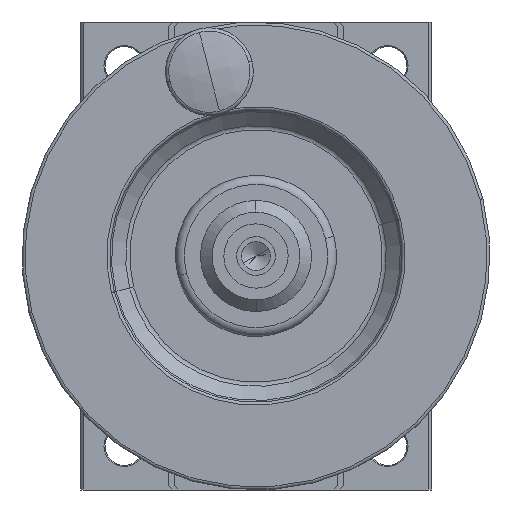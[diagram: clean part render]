
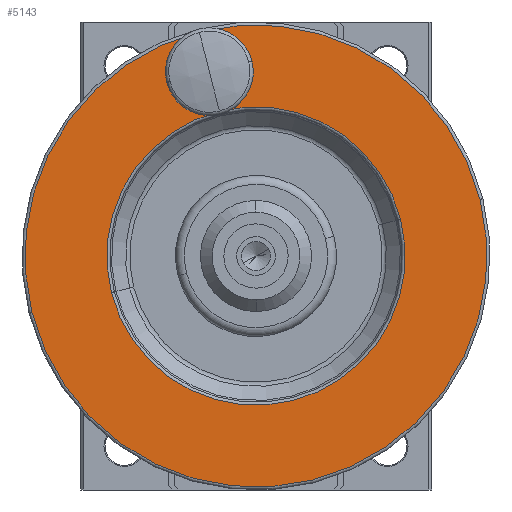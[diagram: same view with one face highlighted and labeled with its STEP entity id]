
A CAD part, left-side view. The second image highlights one B-rep face of the part: STEP entity #5143.
In plain terms, the highlighted planar face has unit normal (-1, 0, 0).
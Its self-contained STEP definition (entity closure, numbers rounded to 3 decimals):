
#138 = CARTESIAN_POINT ( 'NONE',  ( -51., -10.722, -33.747 ) ) ;
#165 = EDGE_CURVE ( 'NONE', #18393, #7353, #18886, .T. ) ;
#584 = EDGE_LOOP ( 'NONE', ( #7034, #17690 ) ) ;
#1178 = ORIENTED_EDGE ( 'NONE', *, *, #165, .T. ) ;
#1584 = EDGE_LOOP ( 'NONE', ( #18350, #1178 ) ) ;
#1724 = CIRCLE ( 'NONE', #15429, 3.001 ) ;
#2525 = CARTESIAN_POINT ( 'NONE',  ( -51., 14., -40. ) ) ;
#2565 = CARTESIAN_POINT ( 'NONE',  ( -51., 14., -40. ) ) ;
#2573 = CIRCLE ( 'NONE', #13454, 25.5 ) ;
#2853 = CIRCLE ( 'NONE', #7231, 39.5 ) ;
#2947 = AXIS2_PLACEMENT_3D ( 'NONE', #11698, #16101, #5755 ) ;
#3879 = CARTESIAN_POINT ( 'NONE',  ( -51., 38.722, -46.253 ) ) ;
#3934 = DIRECTION ( 'NONE',  ( 0., -0.969, 0.245 ) ) ;
#4199 = DIRECTION ( 'NONE',  ( -1., 0., 0. ) ) ;
#4233 = VERTEX_POINT ( 'NONE', #18307 ) ;
#4475 = DIRECTION ( 'NONE',  ( 0., -0.969, 0.245 ) ) ;
#5143 = ADVANCED_FACE ( 'NONE', ( #10535, #16478, #5850 ), #16571, .F. ) ;
#5469 = DIRECTION ( 'NONE',  ( 0., -0.969, 0.245 ) ) ;
#5750 = DIRECTION ( 'NONE',  ( 1., 0., 0. ) ) ;
#5755 = DIRECTION ( 'NONE',  ( 0., -0.969, 0.245 ) ) ;
#5850 = FACE_OUTER_BOUND ( 'NONE', #17301, .T. ) ;
#5905 = CARTESIAN_POINT ( 'NONE',  ( -51., 21.969, -8.492 ) ) ;
#6235 = EDGE_CURVE ( 'NONE', #8814, #4233, #2853, .T. ) ;
#6957 = DIRECTION ( 'NONE',  ( 1., 0., 0. ) ) ;
#7034 = ORIENTED_EDGE ( 'NONE', *, *, #7462, .T. ) ;
#7231 = AXIS2_PLACEMENT_3D ( 'NONE', #13069, #4199, #5469 ) ;
#7317 = CIRCLE ( 'NONE', #2947, 39.5 ) ;
#7353 = VERTEX_POINT ( 'NONE', #10969 ) ;
#7462 = EDGE_CURVE ( 'NONE', #9751, #10661, #2573, .T. ) ;
#7960 = ORIENTED_EDGE ( 'NONE', *, *, #6235, .T. ) ;
#8038 = CIRCLE ( 'NONE', #17984, 25.5 ) ;
#8814 = VERTEX_POINT ( 'NONE', #13472 ) ;
#9556 = EDGE_CURVE ( 'NONE', #7353, #18393, #1724, .T. ) ;
#9561 = AXIS2_PLACEMENT_3D ( 'NONE', #5905, #13388, #12012 ) ;
#9751 = VERTEX_POINT ( 'NONE', #138 ) ;
#10209 = CARTESIAN_POINT ( 'NONE',  ( -51., 19.06, -7.756 ) ) ;
#10535 = FACE_BOUND ( 'NONE', #1584, .T. ) ;
#10661 = VERTEX_POINT ( 'NONE', #3879 ) ;
#10969 = CARTESIAN_POINT ( 'NONE',  ( -51., 24.878, -9.228 ) ) ;
#11698 = CARTESIAN_POINT ( 'NONE',  ( -51., 14., -40. ) ) ;
#11869 = CARTESIAN_POINT ( 'NONE',  ( -51., 4.192, -78.779 ) ) ;
#12012 = DIRECTION ( 'NONE',  ( 0., -0.969, 0.245 ) ) ;
#12523 = EDGE_CURVE ( 'NONE', #10661, #9751, #8038, .T. ) ;
#13006 = AXIS2_PLACEMENT_3D ( 'NONE', #11869, #5750, #4475 ) ;
#13069 = CARTESIAN_POINT ( 'NONE',  ( -51., 14., -40. ) ) ;
#13388 = DIRECTION ( 'NONE',  ( 1., 0., 0. ) ) ;
#13454 = AXIS2_PLACEMENT_3D ( 'NONE', #2565, #6957, #3934 ) ;
#13472 = CARTESIAN_POINT ( 'NONE',  ( -51., -24.294, -30.315 ) ) ;
#14091 = DIRECTION ( 'NONE',  ( 1., 0., 0. ) ) ;
#14422 = DIRECTION ( 'NONE',  ( 1., 0., 0. ) ) ;
#15429 = AXIS2_PLACEMENT_3D ( 'NONE', #17508, #14091, #18762 ) ;
#15498 = EDGE_CURVE ( 'NONE', #4233, #8814, #7317, .T. ) ;
#15785 = ORIENTED_EDGE ( 'NONE', *, *, #15498, .T. ) ;
#16101 = DIRECTION ( 'NONE',  ( -1., 0., 0. ) ) ;
#16478 = FACE_BOUND ( 'NONE', #584, .T. ) ;
#16571 = PLANE ( 'NONE',  #13006 ) ;
#17301 = EDGE_LOOP ( 'NONE', ( #7960, #15785 ) ) ;
#17508 = CARTESIAN_POINT ( 'NONE',  ( -51., 21.969, -8.492 ) ) ;
#17690 = ORIENTED_EDGE ( 'NONE', *, *, #12523, .T. ) ;
#17984 = AXIS2_PLACEMENT_3D ( 'NONE', #2525, #14422, #18903 ) ;
#18307 = CARTESIAN_POINT ( 'NONE',  ( -51., 52.294, -49.685 ) ) ;
#18350 = ORIENTED_EDGE ( 'NONE', *, *, #9556, .T. ) ;
#18393 = VERTEX_POINT ( 'NONE', #10209 ) ;
#18762 = DIRECTION ( 'NONE',  ( 0., -0.969, 0.245 ) ) ;
#18886 = CIRCLE ( 'NONE', #9561, 3.001 ) ;
#18903 = DIRECTION ( 'NONE',  ( 0., -0.969, 0.245 ) ) ;
